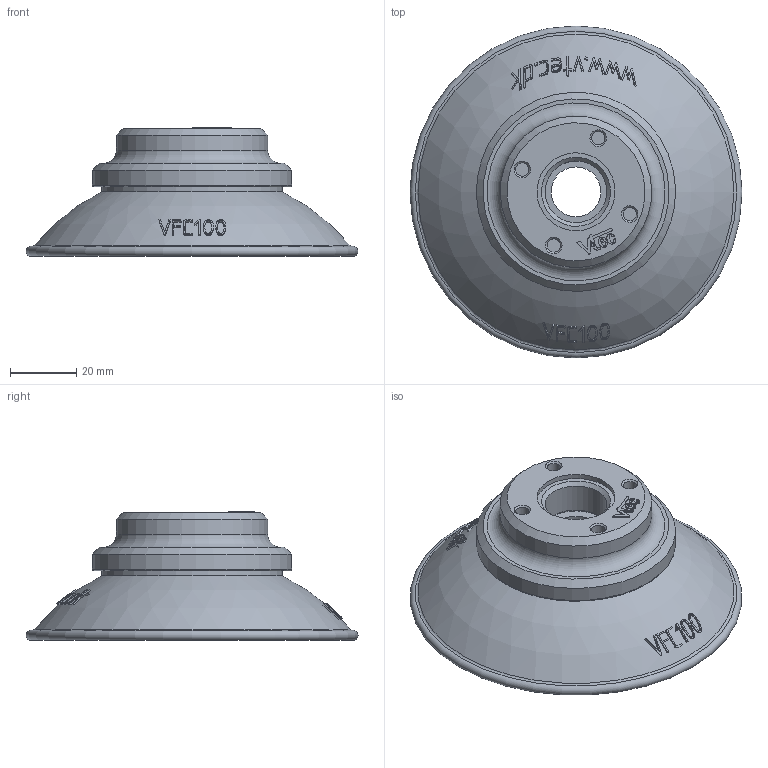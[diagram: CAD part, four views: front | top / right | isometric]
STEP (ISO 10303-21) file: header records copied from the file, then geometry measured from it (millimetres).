
FILE_DESCRIPTION( ( 'STEP AP203' ), '1' );
FILE_NAME( 'C:/Documents and Settings/Owner/官帕 拳搁/3D/Vacuum Pad/VFC series/VFC100-12F.stp', '2006-04-25T05:08:25', ( ' ' ), ( ' ' ), 'XStep 1.0', ' ', ' ' );
FILE_SCHEMA( ( 'CONFIG_CONTROL_DESIGN) ( )' ) );
Length unit declared in the file: metre
Products named in the file (3): Assem1; 1; 2
Bounding box: 100 x 100 x 38.8 mm (x, y, z)
Volume: 132234 mm3; surface area: 75376.9 mm2
Topology: 4 solids, 4 shells, 806 faces, 1956 edges, 1300 vertices
Faces by surface type: bspline 256, plane 218, cylinder 180, sphere 112, cone 22, torus 14, extrusion 4
Full cylindrical faces by diameter (mm): 0.791 x2, 4 x16, 6.7 x16, 15 x2, 18.6 x2, 20 x2, 23.5 x2, 45.6 x2, 50 x2, 54.5 x2, 55 x2, 60 x2
Entity records: 19363 total; most frequent: CARTESIAN_POINT 10761, ORIENTED_EDGE 1820, DIRECTION 1434, EDGE_CURVE 910, VERTEX_POINT 634, AXIS2_PLACEMENT_3D 578, EDGE_LOOP 546, FACE_OUTER_BOUND 443
